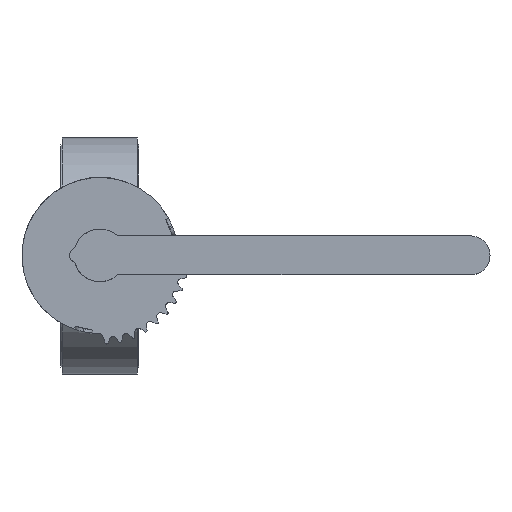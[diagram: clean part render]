
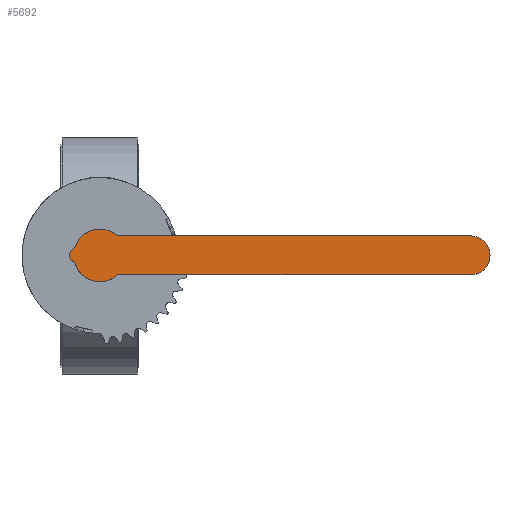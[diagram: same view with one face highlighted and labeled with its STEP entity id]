
A CAD part, top view. The second image highlights one B-rep face of the part: STEP entity #5692.
In plain terms, the highlighted planar face has unit normal (0, 0, 1).
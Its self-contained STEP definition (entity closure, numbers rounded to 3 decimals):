
#5692=ADVANCED_FACE('',(#11203),#11205,.T.);
#11203=FACE_BOUND('',#11204,.T.);
#11204=EDGE_LOOP('',(#15617,#15618,#15619,#15620,#15621,#15622,#15623,#15624));
#11205=PLANE('',#11206);
#11206=AXIS2_PLACEMENT_3D('',#11207,#11208,#11209);
#11207=CARTESIAN_POINT('',(0.,0.,237.));
#11208=DIRECTION('',(0.,0.,1.));
#11209=DIRECTION('',(1.,0.,0.));
#15617=ORIENTED_EDGE('',*,*,#18095,.T.);
#15618=ORIENTED_EDGE('',*,*,#18093,.T.);
#15619=ORIENTED_EDGE('',*,*,#18101,.T.);
#15620=ORIENTED_EDGE('',*,*,#18106,.T.);
#15621=ORIENTED_EDGE('',*,*,#18109,.T.);
#15622=ORIENTED_EDGE('',*,*,#18111,.T.);
#15623=ORIENTED_EDGE('',*,*,#18097,.T.);
#15624=ORIENTED_EDGE('',*,*,#18051,.T.);
#18051=EDGE_CURVE('',#21386,#21384,#21387,.T.);
#18093=EDGE_CURVE('',#21427,#21468,#21470,.T.);
#18095=EDGE_CURVE('',#21384,#21427,#21472,.T.);
#18097=EDGE_CURVE('',#21475,#21386,#21476,.T.);
#18101=EDGE_CURVE('',#21468,#21481,#21483,.T.);
#18106=EDGE_CURVE('',#21481,#21489,#21491,.T.);
#18109=EDGE_CURVE('',#21489,#21494,#21496,.T.);
#18111=EDGE_CURVE('',#21494,#21475,#21498,.T.);
#21384=VERTEX_POINT('',#30135);
#21386=VERTEX_POINT('',#30139);
#21387=LINE('',#30140,#30141);
#21427=VERTEX_POINT('',#30222);
#21468=VERTEX_POINT('',#30303);
#21470=LINE('',#30307,#30308);
#21472=CIRCLE('',#30314,13.);
#21475=VERTEX_POINT('',#30323);
#21476=CIRCLE('',#30324,17.5);
#21481=VERTEX_POINT('',#30337);
#21483=CIRCLE('',#30341,17.5);
#21489=VERTEX_POINT('',#30358);
#21491=LINE('',#30362,#30363);
#21494=VERTEX_POINT('',#30370);
#21496=CIRCLE('',#30374,4.);
#21498=LINE('',#30381,#30382);
#30135=CARTESIAN_POINT('',(247.,-13.,237.));
#30139=CARTESIAN_POINT('',(11.715,-13.,237.));
#30140=CARTESIAN_POINT('',(11.715,-13.,237.));
#30141=VECTOR('',#30142,1.);
#30142=DIRECTION('',(1.,0.,0.));
#30222=CARTESIAN_POINT('',(247.,13.,237.));
#30303=CARTESIAN_POINT('',(11.715,13.,237.));
#30307=CARTESIAN_POINT('',(247.,13.,237.));
#30308=VECTOR('',#30309,1.);
#30309=DIRECTION('',(-1.,0.,0.));
#30314=AXIS2_PLACEMENT_3D('',#30315,#30316,#30317);
#30315=CARTESIAN_POINT('',(247.,0.,237.));
#30316=DIRECTION('',(0.,0.,1.));
#30317=DIRECTION('',(0.,-1.,0.));
#30323=CARTESIAN_POINT('',(-16.771,-5.,237.));
#30324=AXIS2_PLACEMENT_3D('',#30325,#30326,#30327);
#30325=CARTESIAN_POINT('',(0.,0.,237.));
#30326=DIRECTION('',(0.,0.,1.));
#30327=DIRECTION('',(-0.958,-0.286,0.));
#30337=CARTESIAN_POINT('',(-16.771,5.,237.));
#30341=AXIS2_PLACEMENT_3D('',#30342,#30343,#30344);
#30342=CARTESIAN_POINT('',(0.,0.,237.));
#30343=DIRECTION('',(0.,0.,1.));
#30344=DIRECTION('',(0.669,0.743,0.));
#30358=CARTESIAN_POINT('',(-19.113,3.119,237.));
#30362=CARTESIAN_POINT('',(-16.771,5.,237.));
#30363=VECTOR('',#30364,1.);
#30364=DIRECTION('',(-0.78,-0.626,0.));
#30370=CARTESIAN_POINT('',(-19.113,-3.119,237.));
#30374=AXIS2_PLACEMENT_3D('',#30375,#30376,#30377);
#30375=CARTESIAN_POINT('',(-16.61,0.,237.));
#30376=DIRECTION('',(0.,0.,1.));
#30377=DIRECTION('',(-0.626,0.78,0.));
#30381=CARTESIAN_POINT('',(-19.113,-3.119,237.));
#30382=VECTOR('',#30383,1.);
#30383=DIRECTION('',(0.78,-0.626,0.));
